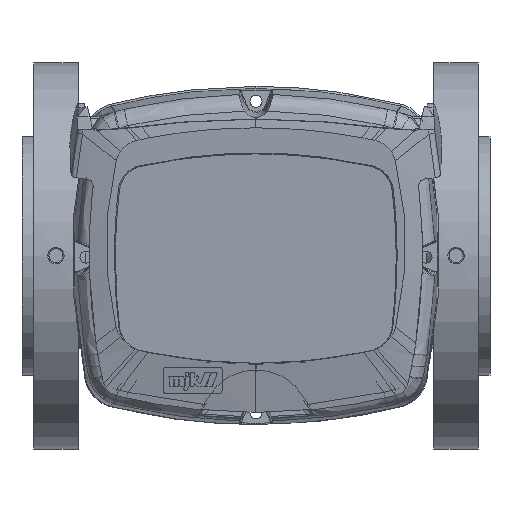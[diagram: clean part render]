
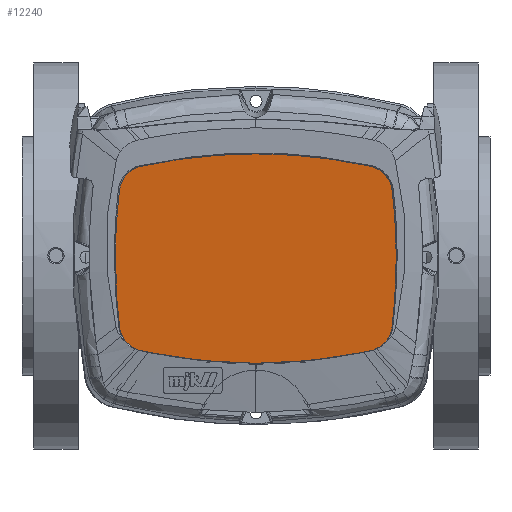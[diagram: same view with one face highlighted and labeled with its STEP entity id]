
A CAD part, top view. The second image highlights one B-rep face of the part: STEP entity #12240.
In plain terms, the highlighted planar face has unit normal (0, -0.107, 0.994).
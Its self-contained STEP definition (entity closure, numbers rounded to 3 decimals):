
#3906=CARTESIAN_POINT('',(48.861,-40.832,182.298));
#3907=VERTEX_POINT('',#3906);
#3915=CARTESIAN_POINT('',(-0.082,-46.136,181.729));
#3916=VERTEX_POINT('',#3915);
#3917=CARTESIAN_POINT('',(-0.082,179.744,205.984));
#3918=DIRECTION('',(0.,0.107,-0.994));
#3919=DIRECTION('',(0.,-0.994,-0.107));
#3920=AXIS2_PLACEMENT_3D('',#3917,#3918,#3919);
#3921=CIRCLE('',#3920,227.179);
#3922=EDGE_CURVE('',#3907,#3916,#3921,.T.);
#12117=CARTESIAN_POINT('',(-49.026,38.004,190.764));
#12118=VERTEX_POINT('',#12117);
#12125=CARTESIAN_POINT('',(-0.082,43.309,191.333));
#12126=VERTEX_POINT('',#12125);
#12127=CARTESIAN_POINT('',(-0.078,-182.615,167.073));
#12128=DIRECTION('',(0.,-0.107,0.994));
#12129=DIRECTION('',(-0.215,0.971,0.104));
#12130=AXIS2_PLACEMENT_3D('',#12127,#12128,#12129);
#12131=CIRCLE('',#12130,227.223);
#12132=EDGE_CURVE('',#12126,#12118,#12131,.T.);
#12143=CARTESIAN_POINT('',(59.918,-1.414,186.531));
#12144=DIRECTION('',(0.,-0.107,0.994));
#12145=DIRECTION('',(1.0,0.0,0.0));
#12146=AXIS2_PLACEMENT_3D('',#12143,#12144,#12145);
#12147=PLANE('',#12146);
#12148=CARTESIAN_POINT('',(-58.326,27.779,189.666));
#12149=VERTEX_POINT('',#12148);
#12150=CARTESIAN_POINT('',(-46.449,26.393,189.517));
#12151=DIRECTION('',(0.,-0.107,0.994));
#12152=DIRECTION('',(0.601,-0.795,-0.085));
#12153=AXIS2_PLACEMENT_3D('',#12150,#12151,#12152);
#12154=ELLIPSE('',#12153,11.959,11.958);
#12155=EDGE_CURVE('',#12118,#12149,#12154,.T.);
#12156=ORIENTED_EDGE('',*,*,#12155,.T.);
#12157=CARTESIAN_POINT('',(-60.082,-1.414,186.531));
#12158=VERTEX_POINT('',#12157);
#12159=CARTESIAN_POINT('',(186.183,-1.414,186.531));
#12160=DIRECTION('',(0.,-0.107,0.994));
#12161=DIRECTION('',(-1.,0.,0.));
#12162=AXIS2_PLACEMENT_3D('',#12159,#12160,#12161);
#12163=CIRCLE('',#12162,246.265);
#12164=EDGE_CURVE('',#12149,#12158,#12163,.T.);
#12165=ORIENTED_EDGE('',*,*,#12164,.T.);
#12166=CARTESIAN_POINT('',(-49.026,-40.832,182.298));
#12167=VERTEX_POINT('',#12166);
#12168=CARTESIAN_POINT('',(-60.082,-1.414,186.531));
#12169=CARTESIAN_POINT('',(-60.082,-9.589,185.653));
#12170=CARTESIAN_POINT('',(-59.671,-17.761,184.776));
#12171=CARTESIAN_POINT('',(-58.721,-27.152,183.767));
#12172=CARTESIAN_POINT('',(-58.585,-28.404,183.633));
#12173=CARTESIAN_POINT('',(-58.256,-31.216,183.331));
#12174=CARTESIAN_POINT('',(-58.103,-32.703,183.171));
#12175=CARTESIAN_POINT('',(-56.341,-36.085,182.808));
#12176=CARTESIAN_POINT('',(-55.345,-37.32,182.675));
#12177=CARTESIAN_POINT('',(-52.975,-39.299,182.463));
#12178=CARTESIAN_POINT('',(-51.637,-40.04,182.383));
#12179=CARTESIAN_POINT('',(-49.894,-40.612,182.322));
#12180=CARTESIAN_POINT('',(-49.486,-40.731,182.309));
#12181=CARTESIAN_POINT('',(-49.026,-40.832,182.298));
#12182=B_SPLINE_CURVE_WITH_KNOTS('',3,(#12168,#12169,#12170,#12171,#12172,#12173,#12174,#12175,#12176,#12177,#12178,#12179,#12180,#12181),.UNSPECIFIED.,.F.,.U.,(4,2,2,2,2,2,4),(-2.05,-1.629,-1.565,-1.484,-1.427,-1.373,-1.361),.UNSPECIFIED.);
#12183=EDGE_CURVE('',#12158,#12167,#12182,.T.);
#12184=ORIENTED_EDGE('',*,*,#12183,.T.);
#12185=CARTESIAN_POINT('',(-0.082,179.744,205.984));
#12186=DIRECTION('',(0.,-0.107,0.994));
#12187=DIRECTION('',(0.,-0.994,-0.107));
#12188=AXIS2_PLACEMENT_3D('',#12185,#12186,#12187);
#12189=CIRCLE('',#12188,227.179);
#12190=EDGE_CURVE('',#12167,#3916,#12189,.T.);
#12191=ORIENTED_EDGE('',*,*,#12190,.T.);
#12192=ORIENTED_EDGE('',*,*,#3922,.F.);
#12193=CARTESIAN_POINT('',(59.918,-1.414,186.531));
#12194=VERTEX_POINT('',#12193);
#12195=CARTESIAN_POINT('',(59.918,-1.414,186.531));
#12196=CARTESIAN_POINT('',(59.918,-9.589,185.653));
#12197=CARTESIAN_POINT('',(59.506,-17.761,184.776));
#12198=CARTESIAN_POINT('',(58.557,-27.152,183.767));
#12199=CARTESIAN_POINT('',(58.42,-28.404,183.633));
#12200=CARTESIAN_POINT('',(58.092,-31.216,183.331));
#12201=CARTESIAN_POINT('',(57.938,-32.703,183.171));
#12202=CARTESIAN_POINT('',(56.176,-36.085,182.808));
#12203=CARTESIAN_POINT('',(55.181,-37.32,182.675));
#12204=CARTESIAN_POINT('',(52.81,-39.299,182.463));
#12205=CARTESIAN_POINT('',(51.473,-40.04,182.383));
#12206=CARTESIAN_POINT('',(49.729,-40.612,182.322));
#12207=CARTESIAN_POINT('',(49.321,-40.731,182.309));
#12208=CARTESIAN_POINT('',(48.861,-40.832,182.298));
#12209=B_SPLINE_CURVE_WITH_KNOTS('',3,(#12195,#12196,#12197,#12198,#12199,#12200,#12201,#12202,#12203,#12204,#12205,#12206,#12207,#12208),.UNSPECIFIED.,.F.,.U.,(4,2,2,2,2,2,4),(-10.59,-7.071,-6.53,-5.853,-5.38,-4.925,-4.829),.UNSPECIFIED.);
#12210=EDGE_CURVE('',#12194,#3907,#12209,.T.);
#12211=ORIENTED_EDGE('',*,*,#12210,.F.);
#12212=CARTESIAN_POINT('',(58.161,27.779,189.666));
#12213=VERTEX_POINT('',#12212);
#12214=CARTESIAN_POINT('',(-186.348,-1.414,186.531));
#12215=DIRECTION('',(0.,0.107,-0.994));
#12216=DIRECTION('',(1.,0.,0.));
#12217=AXIS2_PLACEMENT_3D('',#12214,#12215,#12216);
#12218=CIRCLE('',#12217,246.265);
#12219=EDGE_CURVE('',#12213,#12194,#12218,.T.);
#12220=ORIENTED_EDGE('',*,*,#12219,.F.);
#12221=CARTESIAN_POINT('',(48.861,38.004,190.764));
#12222=VERTEX_POINT('',#12221);
#12223=CARTESIAN_POINT('',(46.284,26.393,189.517));
#12224=DIRECTION('',(0.,0.107,-0.994));
#12225=DIRECTION('',(0.601,0.795,0.085));
#12226=AXIS2_PLACEMENT_3D('',#12223,#12224,#12225);
#12227=ELLIPSE('',#12226,11.959,11.958);
#12228=EDGE_CURVE('',#12222,#12213,#12227,.T.);
#12229=ORIENTED_EDGE('',*,*,#12228,.F.);
#12230=CARTESIAN_POINT('',(-0.087,-182.615,167.073));
#12231=DIRECTION('',(0.,0.107,-0.994));
#12232=DIRECTION('',(0.215,0.971,0.104));
#12233=AXIS2_PLACEMENT_3D('',#12230,#12231,#12232);
#12234=CIRCLE('',#12233,227.223);
#12235=EDGE_CURVE('',#12126,#12222,#12234,.T.);
#12236=ORIENTED_EDGE('',*,*,#12235,.F.);
#12237=ORIENTED_EDGE('',*,*,#12132,.T.);
#12238=EDGE_LOOP('',(#12156,#12165,#12184,#12191,#12192,#12211,#12220,#12229,#12236,#12237));
#12239=FACE_OUTER_BOUND('',#12238,.T.);
#12240=ADVANCED_FACE('',(#12239),#12147,.T.);
